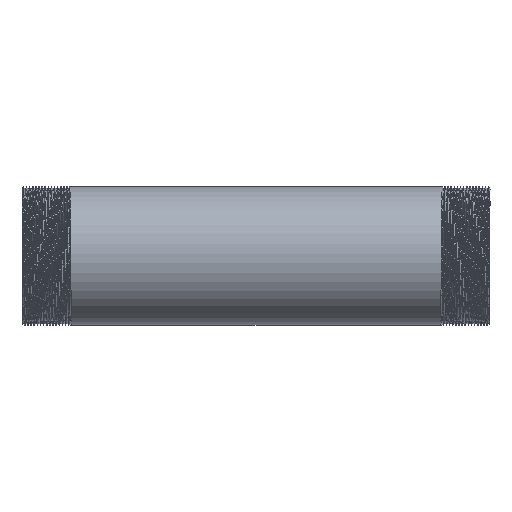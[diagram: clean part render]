
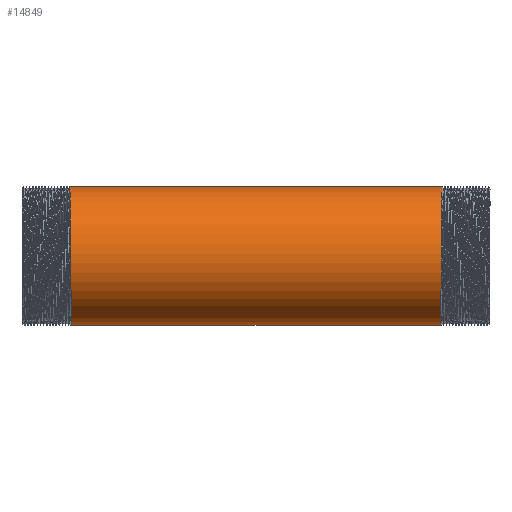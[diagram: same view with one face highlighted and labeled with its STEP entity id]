
A CAD part, front view. The second image highlights one B-rep face of the part: STEP entity #14849.
In plain terms, the highlighted cylindrical face has radius 44.45 mm (diameter 88.9 mm), a partial arc.
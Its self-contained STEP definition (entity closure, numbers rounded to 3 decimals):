
#39 = VERTEX_POINT ( 'NONE', #5154 ) ;
#111 = CYLINDRICAL_SURFACE ( 'NONE', #5205, 44.45 ) ;
#277 = CARTESIAN_POINT ( 'NONE',  ( -149.494, 0., 0. ) ) ;
#309 = DIRECTION ( 'NONE',  ( -1., 0., 0. ) ) ;
#366 = CARTESIAN_POINT ( 'NONE',  ( -118.35, -14.443, -44.45 ) ) ;
#525 = CARTESIAN_POINT ( 'NONE',  ( -118.45, -26.127, -35.961 ) ) ;
#607 = CARTESIAN_POINT ( 'NONE',  ( -119.25, 0., 44.45 ) ) ;
#979 = EDGE_CURVE ( 'NONE', #9607, #12503, #12966, .T. ) ;
#2386 = CARTESIAN_POINT ( 'NONE',  ( 118.55, -37.811, -27.472 ) ) ;
#2465 = CARTESIAN_POINT ( 'NONE',  ( 118.85, -42.274, 13.736 ) ) ;
#2962 = LINE ( 'NONE', #6735, #13851 ) ;
#3117 = CARTESIAN_POINT ( 'NONE',  ( -118.85, -42.274, 13.736 ) ) ;
#3821 = EDGE_CURVE ( 'NONE', #9607, #7668, #2962, .T. ) ;
#4217 = DIRECTION ( 'NONE',  ( 0., 0., 1. ) ) ;
#4325 = LINE ( 'NONE', #11729, #12339 ) ;
#4377 = CARTESIAN_POINT ( 'NONE',  ( -118.55, -37.811, -27.472 ) ) ;
#5154 = CARTESIAN_POINT ( 'NONE',  ( -119.25, 0., 44.45 ) ) ;
#5205 = AXIS2_PLACEMENT_3D ( 'NONE', #277, #11610, #4217 ) ;
#5244 = DIRECTION ( 'NONE',  ( -1., 0., 0. ) ) ;
#6157 = CARTESIAN_POINT ( 'NONE',  ( 118.35, -14.443, -44.45 ) ) ;
#6284 = ORIENTED_EDGE ( 'NONE', *, *, #13485, .T. ) ;
#6735 = CARTESIAN_POINT ( 'NONE',  ( -149.494, 0., -44.45 ) ) ;
#6971 = CARTESIAN_POINT ( 'NONE',  ( -119.15, -14.443, 44.45 ) ) ;
#7577 = CARTESIAN_POINT ( 'NONE',  ( 118.95, -37.811, 27.472 ) ) ;
#7668 = VERTEX_POINT ( 'NONE', #15207 ) ;
#7673 = ORIENTED_EDGE ( 'NONE', *, *, #979, .T. ) ;
#8071 = FACE_OUTER_BOUND ( 'NONE', #15089, .T. ) ;
#8196 = EDGE_CURVE ( 'NONE', #7668, #39, #10614, .T. ) ;
#8240 = CARTESIAN_POINT ( 'NONE',  ( -118.95, -37.811, 27.472 ) ) ;
#8598 = CARTESIAN_POINT ( 'NONE',  ( 118.25, 0., -44.45 ) ) ;
#9498 = CARTESIAN_POINT ( 'NONE',  ( -118.65, -42.274, -13.736 ) ) ;
#9607 = VERTEX_POINT ( 'NONE', #14250 ) ;
#10181 = CARTESIAN_POINT ( 'NONE',  ( 118.65, -42.274, -13.736 ) ) ;
#10614 =( BOUNDED_CURVE ( )  B_SPLINE_CURVE ( 2, ( #11865, #366, #525, #4377, #9498, #14602, #3117, #8240, #13353, #6971, #607 ),
 .UNSPECIFIED., .F., .F. ) 
 B_SPLINE_CURVE_WITH_KNOTS ( ( 3, 2, 2, 2, 2, 3 ),
 ( 0., 0.006, 0.011, 0.017, 0.022, 0.028 ),
 .UNSPECIFIED. ) 
 CURVE ( )  GEOMETRIC_REPRESENTATION_ITEM ( )  RATIONAL_B_SPLINE_CURVE ( ( 1., 0.951, 1., 0.951, 1., 0.951, 1., 0.951, 1., 0.951, 1. ) ) 
 REPRESENTATION_ITEM ( '' )  );
#11290 = CARTESIAN_POINT ( 'NONE',  ( 119.15, -14.443, 44.45 ) ) ;
#11610 = DIRECTION ( 'NONE',  ( -1., 0., 0. ) ) ;
#11729 = CARTESIAN_POINT ( 'NONE',  ( -149.494, 0., 44.45 ) ) ;
#11865 = CARTESIAN_POINT ( 'NONE',  ( -118.25, 0., -44.45 ) ) ;
#12339 = VECTOR ( 'NONE', #309, 1000. ) ;
#12503 = VERTEX_POINT ( 'NONE', #16262 ) ;
#12620 = CARTESIAN_POINT ( 'NONE',  ( 119.25, 0., 44.45 ) ) ;
#12966 =( BOUNDED_CURVE ( )  B_SPLINE_CURVE ( 2, ( #8598, #6157, #16542, #2386, #10181, #13711, #2465, #7577, #15285, #11290, #12620 ),
 .UNSPECIFIED., .F., .F. ) 
 B_SPLINE_CURVE_WITH_KNOTS ( ( 3, 2, 2, 2, 2, 3 ),
 ( 0., 0.006, 0.011, 0.017, 0.022, 0.028 ),
 .UNSPECIFIED. ) 
 CURVE ( )  GEOMETRIC_REPRESENTATION_ITEM ( )  RATIONAL_B_SPLINE_CURVE ( ( 1., 0.951, 1., 0.951, 1., 0.951, 1., 0.951, 1., 0.951, 1. ) ) 
 REPRESENTATION_ITEM ( '' )  );
#13124 = ORIENTED_EDGE ( 'NONE', *, *, #3821, .F. ) ;
#13353 = CARTESIAN_POINT ( 'NONE',  ( -119.05, -26.127, 35.961 ) ) ;
#13485 = EDGE_CURVE ( 'NONE', #12503, #39, #4325, .T. ) ;
#13711 = CARTESIAN_POINT ( 'NONE',  ( 118.75, -46.737, 0. ) ) ;
#13851 = VECTOR ( 'NONE', #5244, 1000. ) ;
#14250 = CARTESIAN_POINT ( 'NONE',  ( 118.25, 0., -44.45 ) ) ;
#14602 = CARTESIAN_POINT ( 'NONE',  ( -118.75, -46.737, 0. ) ) ;
#14849 = ADVANCED_FACE ( 'NONE', ( #8071 ), #111, .T. ) ;
#14944 = ORIENTED_EDGE ( 'NONE', *, *, #8196, .F. ) ;
#15089 = EDGE_LOOP ( 'NONE', ( #13124, #7673, #6284, #14944 ) ) ;
#15207 = CARTESIAN_POINT ( 'NONE',  ( -118.25, 0., -44.45 ) ) ;
#15285 = CARTESIAN_POINT ( 'NONE',  ( 119.05, -26.127, 35.961 ) ) ;
#16262 = CARTESIAN_POINT ( 'NONE',  ( 119.25, 0., 44.45 ) ) ;
#16542 = CARTESIAN_POINT ( 'NONE',  ( 118.45, -26.127, -35.961 ) ) ;
